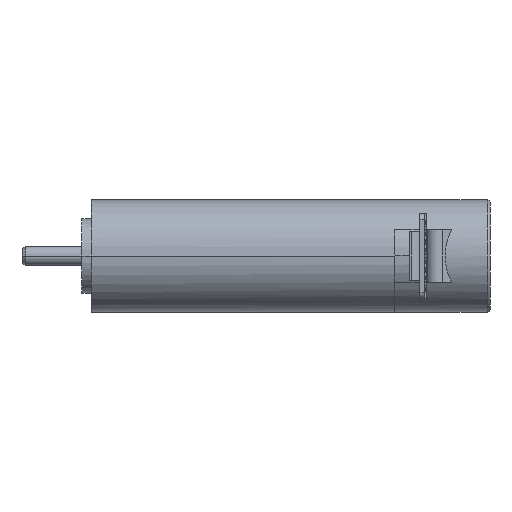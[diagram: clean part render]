
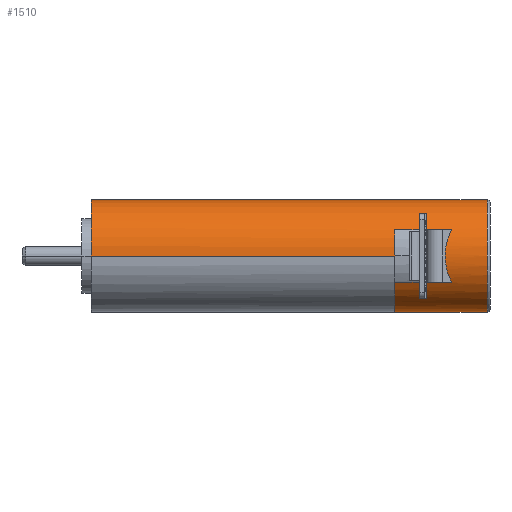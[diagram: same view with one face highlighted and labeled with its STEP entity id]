
A CAD part, front view. The second image highlights one B-rep face of the part: STEP entity #1510.
In plain terms, the highlighted cylindrical face has radius 3 mm (diameter 6 mm), a partial arc.
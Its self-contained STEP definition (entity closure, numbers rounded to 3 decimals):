
#25=CARTESIAN_POINT('',(19.9,0.,0.));
#26=DIRECTION('',(-1.,0.,0.));
#27=DIRECTION('',(0.,-1.,0.));
#28=AXIS2_PLACEMENT_3D('',#25,#26,#27);
#54=CARTESIAN_POINT('',(19.9,0.,0.));
#55=DIRECTION('',(1.,0.,0.));
#56=DIRECTION('',(0.,1.,0.));
#57=AXIS2_PLACEMENT_3D('',#54,#55,#56);
#59=DIRECTION('',(-1.,0.,0.));
#60=VECTOR('',#59,1.354);
#61=CARTESIAN_POINT('',(22.954,-2.653,1.4));
#62=LINE('',#61,#60);
#63=DIRECTION('',(-1.,0.,0.));
#64=VECTOR('',#63,1.7);
#65=CARTESIAN_POINT('',(21.6,-2.653,1.4));
#66=LINE('',#65,#64);
#67=CARTESIAN_POINT('',(19.9,0.,0.));
#68=DIRECTION('',(1.,0.,0.));
#69=DIRECTION('',(0.,-0.884,-0.467));
#70=AXIS2_PLACEMENT_3D('',#67,#68,#69);
#72=DIRECTION('',(1.,0.,0.));
#73=VECTOR('',#72,4.95);
#74=CARTESIAN_POINT('',(19.9,0.,-3.));
#75=LINE('',#74,#73);
#76=DIRECTION('',(-1.,0.,0.));
#77=VECTOR('',#76,4.95);
#78=CARTESIAN_POINT('',(24.85,0.,3.));
#79=LINE('',#78,#77);
#80=DIRECTION('',(-1.,0.,0.));
#81=VECTOR('',#80,16.2);
#82=CARTESIAN_POINT('',(19.9,3.,0.));
#83=LINE('',#82,#81);
#84=DIRECTION('',(1.,0.,0.));
#85=VECTOR('',#84,16.2);
#86=CARTESIAN_POINT('',(3.7,-3.,0.));
#87=LINE('',#86,#85);
#108=CARTESIAN_POINT('',(24.85,0.,0.));
#109=DIRECTION('',(-1.,0.,0.));
#110=DIRECTION('',(0.,0.,-1.));
#111=AXIS2_PLACEMENT_3D('',#108,#109,#110);
#118=CARTESIAN_POINT('',(3.7,0.,0.));
#119=DIRECTION('',(1.,0.,0.));
#120=DIRECTION('',(0.,1.,0.));
#121=AXIS2_PLACEMENT_3D('',#118,#119,#120);
#223=DIRECTION('',(-1.,0.,0.));
#224=VECTOR('',#223,1.7);
#225=CARTESIAN_POINT('',(21.6,-2.653,-1.4));
#226=LINE('',#225,#224);
#429=CARTESIAN_POINT('',(22.954,-2.653,1.4));
#430=CARTESIAN_POINT('',(22.831,-2.776,1.167));
#431=CARTESIAN_POINT('',(22.661,-2.946,0.7));
#432=CARTESIAN_POINT('',(22.58,-3.027,0.));
#433=CARTESIAN_POINT('',(22.661,-2.946,
-0.7));
#434=CARTESIAN_POINT('',(22.831,-2.776,-1.167));
#435=CARTESIAN_POINT('',(22.954,-2.653,-1.4));
#441=DIRECTION('',(-1.,0.,0.));
#442=VECTOR('',#441,1.354);
#443=CARTESIAN_POINT('',(22.954,-2.653,-1.4));
#444=LINE('',#443,#442);
#1070=CARTESIAN_POINT('',(3.7,-3.,0.));
#1071=CARTESIAN_POINT('',(19.9,-3.,0.));
#1072=VERTEX_POINT('',#1070);
#1073=VERTEX_POINT('',#1071);
#1074=CARTESIAN_POINT('',(3.7,3.,0.));
#1075=VERTEX_POINT('',#1074);
#1319=CARTESIAN_POINT('',(21.6,-2.653,1.4));
#1321=VERTEX_POINT('',#1319);
#1327=CARTESIAN_POINT('',(21.6,-2.653,-1.4));
#1329=VERTEX_POINT('',#1327);
#1338=CARTESIAN_POINT('',(22.954,-2.653,1.4));
#1340=VERTEX_POINT('',#1338);
#1344=CARTESIAN_POINT('',(22.954,-2.653,-1.4));
#1345=VERTEX_POINT('',#1344);
#1346=CARTESIAN_POINT('',(24.85,0.,-3.));
#1347=CARTESIAN_POINT('',(24.85,0.,3.));
#1348=VERTEX_POINT('',#1346);
#1349=VERTEX_POINT('',#1347);
#1368=CARTESIAN_POINT('',(19.9,-2.653,1.4));
#1369=VERTEX_POINT('',#1368);
#1370=CARTESIAN_POINT('',(19.9,-2.653,-1.4));
#1371=CARTESIAN_POINT('',(19.9,0.,-3.));
#1372=VERTEX_POINT('',#1370);
#1373=VERTEX_POINT('',#1371);
#1374=CARTESIAN_POINT('',(19.9,3.,0.));
#1375=CARTESIAN_POINT('',(19.9,0.,3.));
#1376=VERTEX_POINT('',#1374);
#1377=VERTEX_POINT('',#1375);
#1477=CARTESIAN_POINT('',(19.9,0.,0.));
#1478=DIRECTION('',(-1.,0.,0.));
#1479=DIRECTION('',(0.,1.,0.));
#1480=AXIS2_PLACEMENT_3D('',#1477,#1478,#1479);
#1481=CYLINDRICAL_SURFACE('',#1480,3.);
#1483=ORIENTED_EDGE('',*,*,#1482,.T.);
#1485=ORIENTED_EDGE('',*,*,#1484,.F.);
#1487=ORIENTED_EDGE('',*,*,#1486,.F.);
#1489=ORIENTED_EDGE('',*,*,#1488,.F.);
#1491=ORIENTED_EDGE('',*,*,#1490,.F.);
#1493=ORIENTED_EDGE('',*,*,#1492,.F.);
#1495=ORIENTED_EDGE('',*,*,#1494,.F.);
#1497=ORIENTED_EDGE('',*,*,#1496,.F.);
#1499=ORIENTED_EDGE('',*,*,#1498,.T.);
#1500=ORIENTED_EDGE('',*,*,#1465,.T.);
#1501=ORIENTED_EDGE('',*,*,#1407,.F.);
#1503=ORIENTED_EDGE('',*,*,#1502,.F.);
#1505=ORIENTED_EDGE('',*,*,#1504,.F.);
#1507=ORIENTED_EDGE('',*,*,#1506,.F.);
#1508=EDGE_LOOP('',(#1483,#1485,#1487,#1489,#1491,#1493,#1495,#1497,#1499,#1500,
#1501,#1503,#1505,#1507));
#1509=FACE_OUTER_BOUND('',#1508,.F.);
#1510=ADVANCED_FACE('',(#1509),#1481,.T.);
#29=CIRCLE('',#28,3.);
#58=CIRCLE('',#57,3.);
#71=CIRCLE('',#70,3.);
#112=CIRCLE('',#111,3.);
#122=CIRCLE('',#121,3.);
#436=B_SPLINE_CURVE_WITH_KNOTS('',3,(#429,#430,#431,#432,#433,#434,#435),
.UNSPECIFIED.,.F.,.F.,(4,1,1,1,4),(0.,0.25,0.5,0.75,1.),
.UNSPECIFIED.);
#1407=EDGE_CURVE('',#1073,#1369,#29,.T.);
#1465=EDGE_CURVE('',#1321,#1369,#66,.T.);
#1482=EDGE_CURVE('',#1376,#1377,#58,.T.);
#1484=EDGE_CURVE('',#1349,#1377,#79,.T.);
#1486=EDGE_CURVE('',#1348,#1349,#112,.T.);
#1488=EDGE_CURVE('',#1373,#1348,#75,.T.);
#1490=EDGE_CURVE('',#1372,#1373,#71,.T.);
#1492=EDGE_CURVE('',#1329,#1372,#226,.T.);
#1494=EDGE_CURVE('',#1345,#1329,#444,.T.);
#1496=EDGE_CURVE('',#1340,#1345,#436,.T.);
#1498=EDGE_CURVE('',#1340,#1321,#62,.T.);
#1502=EDGE_CURVE('',#1072,#1073,#87,.T.);
#1504=EDGE_CURVE('',#1075,#1072,#122,.T.);
#1506=EDGE_CURVE('',#1376,#1075,#83,.T.);
